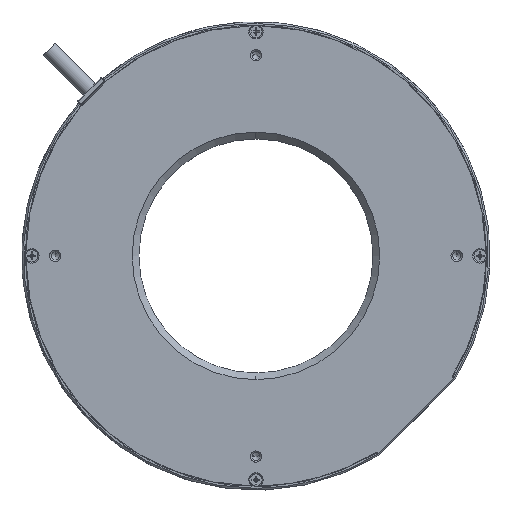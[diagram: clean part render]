
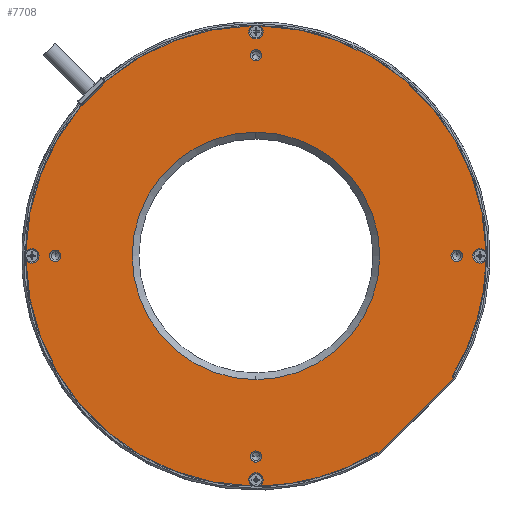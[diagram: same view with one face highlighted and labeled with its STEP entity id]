
A CAD part, top view. The second image highlights one B-rep face of the part: STEP entity #7708.
In plain terms, the highlighted planar face has unit normal (0, 0, 1).
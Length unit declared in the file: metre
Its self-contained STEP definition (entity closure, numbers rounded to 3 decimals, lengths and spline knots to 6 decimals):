
#1335=CARTESIAN_POINT('',(0.,0.,0.002));
#1336=DIRECTION('',(0.,0.,-1.));
#1337=DIRECTION('',(0.,1.,0.));
#1338=AXIS2_PLACEMENT_3D('',#1335,#1336,#1337);
#1340=CARTESIAN_POINT('',(0.,0.,0.002));
#1341=DIRECTION('',(0.,0.,-1.));
#1342=DIRECTION('',(0.,-1.,0.));
#1343=AXIS2_PLACEMENT_3D('',#1340,#1341,#1342);
#1345=CARTESIAN_POINT('',(-0.06,0.,0.002));
#1346=DIRECTION('',(0.,0.,-1.));
#1347=DIRECTION('',(0.,-1.,0.));
#1348=AXIS2_PLACEMENT_3D('',#1345,#1346,#1347);
#1350=CARTESIAN_POINT('',(-0.06,0.,0.002));
#1351=DIRECTION('',(0.,0.,-1.));
#1352=DIRECTION('',(0.,1.,0.));
#1353=AXIS2_PLACEMENT_3D('',#1350,#1351,#1352);
#1355=CARTESIAN_POINT('',(0.,-0.06,0.002));
#1356=DIRECTION('',(0.,0.,-1.));
#1357=DIRECTION('',(1.,0.,0.));
#1358=AXIS2_PLACEMENT_3D('',#1355,#1356,#1357);
#1360=CARTESIAN_POINT('',(0.,-0.06,0.002));
#1361=DIRECTION('',(0.,0.,-1.));
#1362=DIRECTION('',(-1.,0.,0.));
#1363=AXIS2_PLACEMENT_3D('',#1360,#1361,#1362);
#1365=CARTESIAN_POINT('',(0.06,0.,0.002));
#1366=DIRECTION('',(0.,0.,-1.));
#1367=DIRECTION('',(0.,1.,0.));
#1368=AXIS2_PLACEMENT_3D('',#1365,#1366,#1367);
#1370=CARTESIAN_POINT('',(0.06,0.,0.002));
#1371=DIRECTION('',(0.,0.,-1.));
#1372=DIRECTION('',(0.,-1.,0.));
#1373=AXIS2_PLACEMENT_3D('',#1370,#1371,#1372);
#1375=CARTESIAN_POINT('',(0.,0.06,0.002));
#1376=DIRECTION('',(0.,0.,-1.));
#1377=DIRECTION('',(-1.,0.,0.));
#1378=AXIS2_PLACEMENT_3D('',#1375,#1376,#1377);
#1380=CARTESIAN_POINT('',(0.,0.06,0.002));
#1381=DIRECTION('',(0.,0.,-1.));
#1382=DIRECTION('',(1.,0.,0.));
#1383=AXIS2_PLACEMENT_3D('',#1380,#1381,#1382);
#1385=CARTESIAN_POINT('',(0.,0.,0.002));
#1386=DIRECTION('',(0.,0.,1.));
#1387=DIRECTION('',(0.855,-0.518,0.));
#1388=AXIS2_PLACEMENT_3D('',#1385,#1386,#1387);
#1390=CARTESIAN_POINT('',(0.059261,-0.035926,0.002));
#1391=DIRECTION('',(0.,0.,-1.));
#1392=DIRECTION('',(-0.707,-0.707,0.));
#1393=AXIS2_PLACEMENT_3D('',#1390,#1391,#1392);
#1395=DIRECTION('',(-0.707,0.707,0.));
#1396=VECTOR('',#1395,0.00034);
#1397=CARTESIAN_POINT('',(0.059147,-0.03652,0.002));
#1398=LINE('',#1397,#1396);
#1399=DIRECTION('',(0.707,0.707,0.));
#1400=VECTOR('',#1399,0.032);
#1401=CARTESIAN_POINT('',(0.03652,-0.059147,0.002));
#1402=LINE('',#1401,#1400);
#1403=DIRECTION('',(0.707,-0.707,0.));
#1404=VECTOR('',#1403,0.00034);
#1405=CARTESIAN_POINT('',(0.03628,-0.058907,0.002));
#1406=LINE('',#1405,#1404);
#1407=CARTESIAN_POINT('',(0.035926,-0.059261,0.002));
#1408=DIRECTION('',(0.,0.,-1.));
#1409=DIRECTION('',(-0.518,0.855,0.));
#1410=AXIS2_PLACEMENT_3D('',#1407,#1408,#1409);
#1412=CARTESIAN_POINT('',(0.,0.,0.002));
#1413=DIRECTION('',(0.,0.,1.));
#1414=DIRECTION('',(0.017,-1.,0.));
#1415=AXIS2_PLACEMENT_3D('',#1412,#1413,#1414);
#1417=CARTESIAN_POINT('',(0.,0.,0.002));
#1418=DIRECTION('',(0.,0.,1.));
#1419=DIRECTION('',(-1.,-0.017,0.));
#1420=AXIS2_PLACEMENT_3D('',#1417,#1418,#1419);
#1422=CARTESIAN_POINT('',(0.,0.,0.002));
#1423=DIRECTION('',(0.,0.,1.));
#1424=DIRECTION('',(-0.017,1.,0.));
#1425=AXIS2_PLACEMENT_3D('',#1422,#1423,#1424);
#1427=CARTESIAN_POINT('',(0.,0.,0.002));
#1428=DIRECTION('',(0.,0.,1.));
#1429=DIRECTION('',(1.,0.017,0.));
#1430=AXIS2_PLACEMENT_3D('',#1427,#1428,#1429);
#1626=CARTESIAN_POINT('',(0.067,0.,0.002));
#1627=DIRECTION('',(0.,0.,-1.));
#1628=DIRECTION('',(0.832,-0.554,0.));
#1629=AXIS2_PLACEMENT_3D('',#1626,#1627,#1628);
#3192=CARTESIAN_POINT('',(0.,0.067,0.002));
#3193=DIRECTION('',(0.,0.,-1.));
#3194=DIRECTION('',(0.554,0.832,0.));
#3195=AXIS2_PLACEMENT_3D('',#3192,#3193,#3194);
#3519=CARTESIAN_POINT('',(-0.067,0.,0.002));
#3520=DIRECTION('',(0.,0.,-1.));
#3521=DIRECTION('',(-0.832,0.554,0.));
#3522=AXIS2_PLACEMENT_3D('',#3519,#3520,#3521);
#3853=CARTESIAN_POINT('',(0.,-0.067,0.002));
#3854=DIRECTION('',(0.,0.,-1.));
#3855=DIRECTION('',(-0.554,-0.832,0.));
#3856=AXIS2_PLACEMENT_3D('',#3853,#3854,#3855);
#4508=CARTESIAN_POINT('',(0.058833,-0.035667,0.002));
#4509=CARTESIAN_POINT('',(0.06879,-0.001191,0.002));
#4510=VERTEX_POINT('',#4508);
#4511=VERTEX_POINT('',#4509);
#4512=CARTESIAN_POINT('',(0.058907,-0.03628,0.002));
#4513=VERTEX_POINT('',#4512);
#4514=CARTESIAN_POINT('',(0.059147,-0.03652,0.002));
#4515=VERTEX_POINT('',#4514);
#4516=CARTESIAN_POINT('',(0.03652,-0.059147,0.002));
#4517=VERTEX_POINT('',#4516);
#4518=CARTESIAN_POINT('',(0.03628,-0.058907,0.002));
#4519=VERTEX_POINT('',#4518);
#4520=CARTESIAN_POINT('',(0.035667,-0.058833,0.002));
#4521=VERTEX_POINT('',#4520);
#4522=CARTESIAN_POINT('',(0.001191,-0.06879,0.002));
#4523=VERTEX_POINT('',#4522);
#4524=CARTESIAN_POINT('',(-0.06879,-0.001191,0.002));
#4525=CARTESIAN_POINT('',(-0.001191,-0.06879,0.002));
#4526=VERTEX_POINT('',#4524);
#4527=VERTEX_POINT('',#4525);
#4528=CARTESIAN_POINT('',(-0.001191,0.06879,0.002));
#4529=CARTESIAN_POINT('',(-0.06879,0.001191,0.002));
#4530=VERTEX_POINT('',#4528);
#4531=VERTEX_POINT('',#4529);
#4532=CARTESIAN_POINT('',(0.06879,0.001191,0.002));
#4533=CARTESIAN_POINT('',(0.001191,0.06879,0.002));
#4534=VERTEX_POINT('',#4532);
#4535=VERTEX_POINT('',#4533);
#4536=CARTESIAN_POINT('',(0.0017,0.06,0.002));
#4537=CARTESIAN_POINT('',(-0.0017,0.06,0.002));
#4538=VERTEX_POINT('',#4536);
#4539=VERTEX_POINT('',#4537);
#4540=CARTESIAN_POINT('',(0.06,-0.0017,0.002));
#4541=CARTESIAN_POINT('',(0.06,0.0017,0.002));
#4542=VERTEX_POINT('',#4540);
#4543=VERTEX_POINT('',#4541);
#4544=CARTESIAN_POINT('',(-0.0017,-0.06,0.002));
#4545=CARTESIAN_POINT('',(0.0017,-0.06,0.002));
#4546=VERTEX_POINT('',#4544);
#4547=VERTEX_POINT('',#4545);
#4548=CARTESIAN_POINT('',(-0.06,0.0017,0.002));
#4549=CARTESIAN_POINT('',(-0.06,-0.0017,0.002));
#4550=VERTEX_POINT('',#4548);
#4551=VERTEX_POINT('',#4549);
#4552=CARTESIAN_POINT('',(0.,-0.037,0.002));
#4553=CARTESIAN_POINT('',(0.,0.037,0.002));
#4554=VERTEX_POINT('',#4552);
#4555=VERTEX_POINT('',#4553);
#7645=CARTESIAN_POINT('',(0.,0.,0.002));
#7646=DIRECTION('',(0.,0.,-1.));
#7647=DIRECTION('',(0.,-1.,0.));
#7648=AXIS2_PLACEMENT_3D('',#7645,#7646,#7647);
#7649=PLANE('',#7648);
#7651=ORIENTED_EDGE('',*,*,#7650,.F.);
#7653=ORIENTED_EDGE('',*,*,#7652,.F.);
#7655=ORIENTED_EDGE('',*,*,#7654,.F.);
#7657=ORIENTED_EDGE('',*,*,#7656,.F.);
#7659=ORIENTED_EDGE('',*,*,#7658,.F.);
#7661=ORIENTED_EDGE('',*,*,#7660,.F.);
#7663=ORIENTED_EDGE('',*,*,#7662,.F.);
#7665=ORIENTED_EDGE('',*,*,#7664,.F.);
#7667=ORIENTED_EDGE('',*,*,#7666,.F.);
#7669=ORIENTED_EDGE('',*,*,#7668,.F.);
#7671=ORIENTED_EDGE('',*,*,#7670,.F.);
#7673=ORIENTED_EDGE('',*,*,#7672,.F.);
#7675=ORIENTED_EDGE('',*,*,#7674,.F.);
#7677=ORIENTED_EDGE('',*,*,#7676,.F.);
#7678=EDGE_LOOP('',(#7651,#7653,#7655,#7657,#7659,#7661,#7663,#7665,#7667,#7669,
#7671,#7673,#7675,#7677));
#7679=FACE_OUTER_BOUND('',#7678,.F.);
#7681=ORIENTED_EDGE('',*,*,#7680,.F.);
#7683=ORIENTED_EDGE('',*,*,#7682,.F.);
#7684=EDGE_LOOP('',(#7681,#7683));
#7685=FACE_BOUND('',#7684,.F.);
#7687=ORIENTED_EDGE('',*,*,#7686,.F.);
#7689=ORIENTED_EDGE('',*,*,#7688,.F.);
#7690=EDGE_LOOP('',(#7687,#7689));
#7691=FACE_BOUND('',#7690,.F.);
#7693=ORIENTED_EDGE('',*,*,#7692,.F.);
#7695=ORIENTED_EDGE('',*,*,#7694,.F.);
#7696=EDGE_LOOP('',(#7693,#7695));
#7697=FACE_BOUND('',#7696,.F.);
#7699=ORIENTED_EDGE('',*,*,#7698,.F.);
#7701=ORIENTED_EDGE('',*,*,#7700,.F.);
#7702=EDGE_LOOP('',(#7699,#7701));
#7703=FACE_BOUND('',#7702,.F.);
#7704=ORIENTED_EDGE('',*,*,#7624,.F.);
#7705=ORIENTED_EDGE('',*,*,#7638,.F.);
#7706=EDGE_LOOP('',(#7704,#7705));
#7707=FACE_BOUND('',#7706,.F.);
#7708=ADVANCED_FACE('',(#7679,#7685,#7691,#7697,#7703,#7707),#7649,.F.);
#1339=CIRCLE('',#1338,0.037);
#1344=CIRCLE('',#1343,0.037);
#1349=CIRCLE('',#1348,0.0017);
#1354=CIRCLE('',#1353,0.0017);
#1359=CIRCLE('',#1358,0.0017);
#1364=CIRCLE('',#1363,0.0017);
#1369=CIRCLE('',#1368,0.0017);
#1374=CIRCLE('',#1373,0.0017);
#1379=CIRCLE('',#1378,0.0017);
#1384=CIRCLE('',#1383,0.0017);
#1389=CIRCLE('',#1388,0.0688);
#1394=CIRCLE('',#1393,0.0005);
#1411=CIRCLE('',#1410,0.0005);
#1416=CIRCLE('',#1415,0.0688);
#1421=CIRCLE('',#1420,0.0688);
#1426=CIRCLE('',#1425,0.0688);
#1431=CIRCLE('',#1430,0.0688);
#1630=CIRCLE('',#1629,0.00215);
#3196=CIRCLE('',#3195,0.00215);
#3523=CIRCLE('',#3522,0.00215);
#3857=CIRCLE('',#3856,0.00215);
#7624=EDGE_CURVE('',#4555,#4554,#1339,.T.);
#7638=EDGE_CURVE('',#4554,#4555,#1344,.T.);
#7650=EDGE_CURVE('',#4511,#4534,#1630,.T.);
#7652=EDGE_CURVE('',#4510,#4511,#1389,.T.);
#7654=EDGE_CURVE('',#4513,#4510,#1394,.T.);
#7656=EDGE_CURVE('',#4515,#4513,#1398,.T.);
#7658=EDGE_CURVE('',#4517,#4515,#1402,.T.);
#7660=EDGE_CURVE('',#4519,#4517,#1406,.T.);
#7662=EDGE_CURVE('',#4521,#4519,#1411,.T.);
#7664=EDGE_CURVE('',#4523,#4521,#1416,.T.);
#7666=EDGE_CURVE('',#4527,#4523,#3857,.T.);
#7668=EDGE_CURVE('',#4526,#4527,#1421,.T.);
#7670=EDGE_CURVE('',#4531,#4526,#3523,.T.);
#7672=EDGE_CURVE('',#4530,#4531,#1426,.T.);
#7674=EDGE_CURVE('',#4535,#4530,#3196,.T.);
#7676=EDGE_CURVE('',#4534,#4535,#1431,.T.);
#7680=EDGE_CURVE('',#4551,#4550,#1349,.T.);
#7682=EDGE_CURVE('',#4550,#4551,#1354,.T.);
#7686=EDGE_CURVE('',#4547,#4546,#1359,.T.);
#7688=EDGE_CURVE('',#4546,#4547,#1364,.T.);
#7692=EDGE_CURVE('',#4543,#4542,#1369,.T.);
#7694=EDGE_CURVE('',#4542,#4543,#1374,.T.);
#7698=EDGE_CURVE('',#4539,#4538,#1379,.T.);
#7700=EDGE_CURVE('',#4538,#4539,#1384,.T.);
